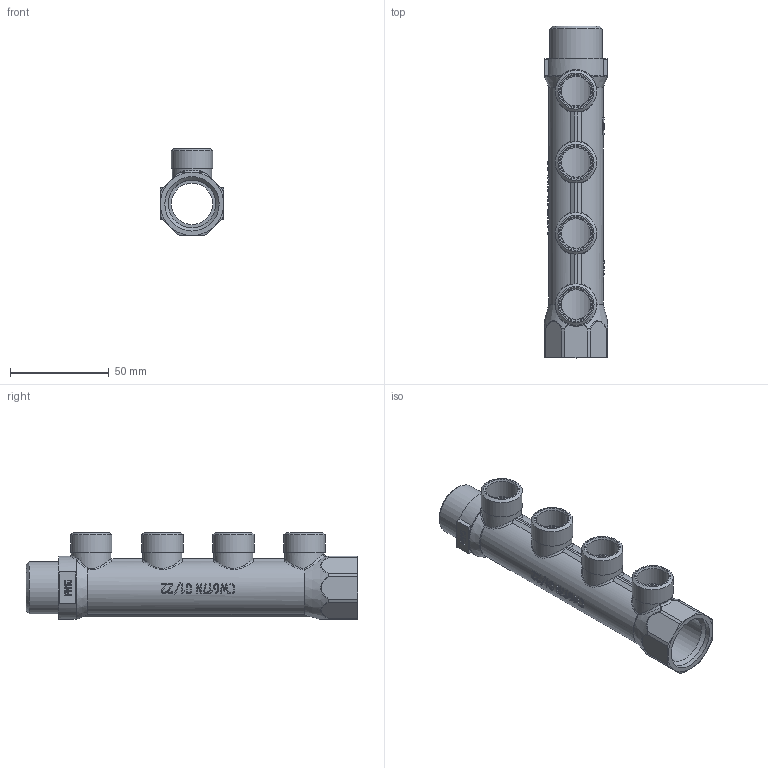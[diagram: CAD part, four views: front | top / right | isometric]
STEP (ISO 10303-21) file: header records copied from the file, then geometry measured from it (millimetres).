
FILE_DESCRIPTION(('STEP AP203'), '1');
FILE_NAME('ÂÐ.732182.024 - VTc.500.N.0504 Êîë. G3-4 (4õG1-2) L168', '2024-07-25T08:41:28', ('IT'), ('VESTA'), 'C3D Converter', 'C3D Toolkit', '');
FILE_SCHEMA(('CONFIG_CONTROL_DESIGN'));
Length unit declared in the file: millimetre
Products named in the file (1): ВР.732182.024
Bounding box: 32 x 168 x 44 mm (x, y, z)
Volume: 39892.3 mm3; surface area: 34714.9 mm2
Topology: 1 solids, 1 shells, 698 faces, 1917 edges, 1260 vertices
Faces by surface type: extrusion 338, plane 243, cylinder 52, bspline 30, cone 21, torus 14
Full cylindrical faces by diameter (mm): 15 x4, 16.1 x4, 20 x4, 20.955 x4, 21 x1, 24.118 x1, 26.441 x1, 27.5 x1, 32 x1
Entity records: 35824 total; most frequent: CARTESIAN_POINT 20132, ORIENTED_EDGE 3760, DIRECTION 2098, EDGE_CURVE 1880, VERTEX_POINT 1260, B_SPLINE_CURVE_WITH_KNOTS 1156, VECTOR 1110, EDGE_LOOP 784
